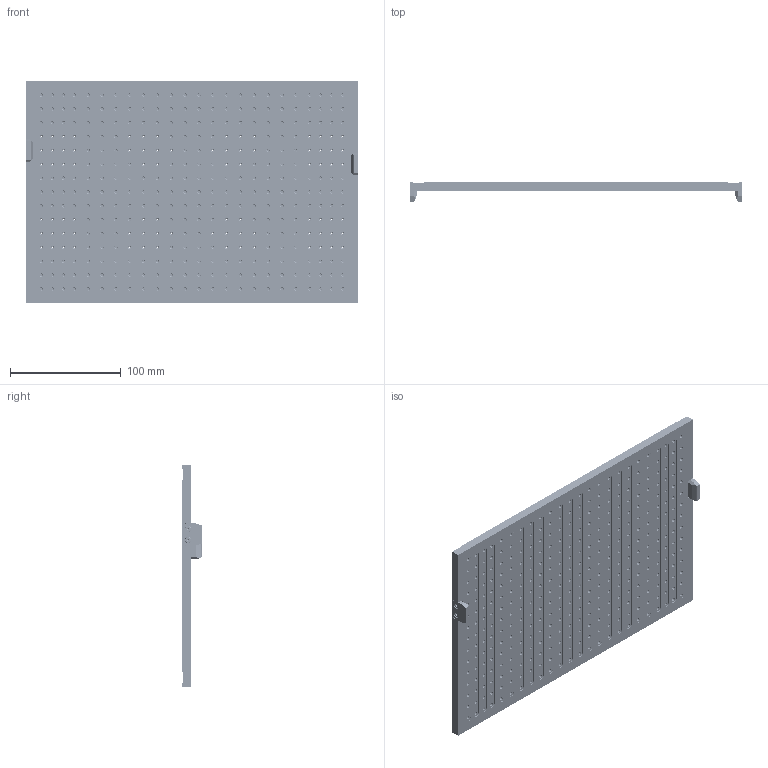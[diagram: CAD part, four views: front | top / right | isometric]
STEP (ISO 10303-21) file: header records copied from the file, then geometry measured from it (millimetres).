
FILE_DESCRIPTION (( 'STEP AP203' ), '1' );
FILE_NAME ('VT02401.STEP', '2016-11-01T06:52:55', ( '' ), ( '' ), 'SwSTEP 2.0', 'SolidWorks 2016', '' );
FILE_SCHEMA (( 'CONFIG_CONTROL_DESIGN' ));
Products named in the file (1): VT02401
Bounding box: 299.75 x 17.5 x 199.75 mm (x, y, z)
Volume: 412321 mm3; surface area: 156414.2 mm2
Topology: 7 solids, 7 shells, 3594 faces, 8060 edges, 4864 vertices
Faces by surface type: cylinder 2282, cone 744, plane 552, bspline 16
Entity records: 102177 total; most frequent: DIRECTION 19782, CARTESIAN_POINT 17063, ORIENTED_EDGE 16088, AXIS2_PLACEMENT_3D 8183, EDGE_CURVE 8044, VERTEX_POINT 4864, EDGE_LOOP 4722, CIRCLE 4604
